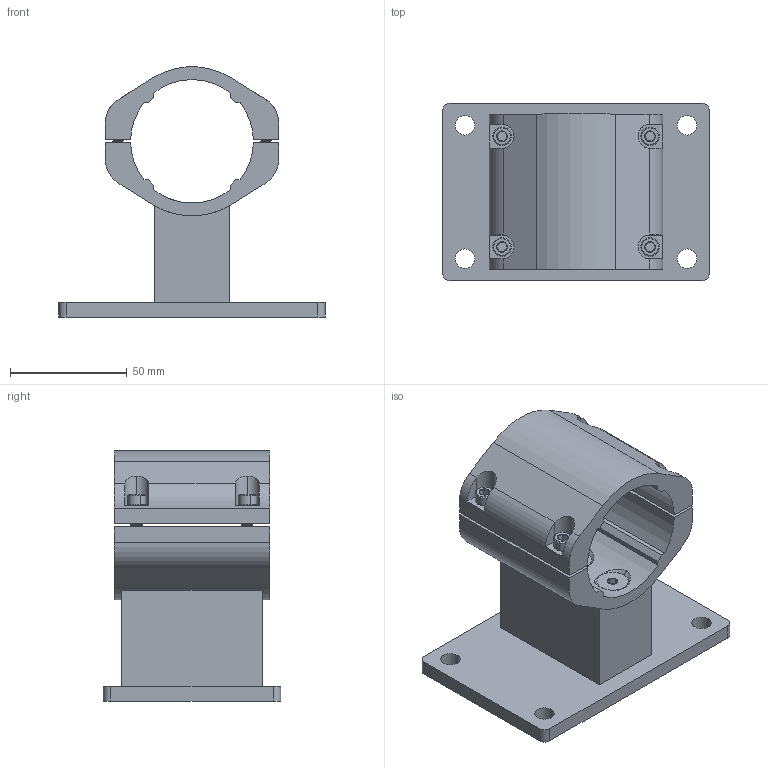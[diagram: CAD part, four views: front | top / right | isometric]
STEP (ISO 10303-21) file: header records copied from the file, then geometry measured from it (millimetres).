
FILE_DESCRIPTION (( 'STEP AP203' ), '1' );
FILE_NAME ('10-0551-00 REV 2, HD WALL BRACKET, 2in OD POLE.STEP', '2018-01-25T23:02:09', ( '' ), ( '' ), 'SwSTEP 2.0', 'SolidWorks 2012', '' );
FILE_SCHEMA (( 'CONFIG_CONTROL_DESIGN' ));
Length unit declared in the file: inch
Products named in the file (12): 10-0551-00 REV 2, HD WALL BRACKET, 2in OD POLE; 019-018, FHSCS, 3''8-16 x 1.0; 002-073-00, SHCS, 10-32 x .75, ZINC_002-073-00; 001-023-00, FHSCS, 1''4-20, .75L_001-023-00; 41-0498-1X REV 1, CAP THREADED, 2in POLE MOUNT, RAW; 41-0498-0X REV A, CAP, 2in POLE MOUNT, RAW; 41-0498-00 REV 2, CAP, 2in POLE MOUNT, BLACK; 41-0498-10 REV 1, CAP, THREADED, 2in POLE MOUNT, BLACK; 11-0499-00 REV 2, PLATE, 2in POLE WALL BRACKET, BLACK; 11-0499-0X REV 1, PLATE, 2in POLE WALL BRACKET_DEFAULT; 11-0502-00 REV 1, BRIDGE, WALL BRACKET, BLACK; 11-0502-0X REV 1, BRIDGE, WALL BRACKET, RAW
Assembly tree (17 placements, depth 3):
  10-0551-00 REV 2, HD WALL BRACKET, 2in OD POLE
    11-0499-00 REV 2, PLATE, 2in POLE WALL BRACKET, BLACK
      11-0499-0X REV 1, PLATE, 2in POLE WALL BRACKET_DEFAULT
    11-0502-00 REV 1, BRIDGE, WALL BRACKET, BLACK
      11-0502-0X REV 1, BRIDGE, WALL BRACKET, RAW
    41-0498-00 REV 2, CAP, 2in POLE MOUNT, BLACK
      41-0498-0X REV A, CAP, 2in POLE MOUNT, RAW
    41-0498-10 REV 1, CAP, THREADED, 2in POLE MOUNT, BLACK
      41-0498-1X REV 1, CAP THREADED, 2in POLE MOUNT, RAW
    019-018, FHSCS, 3''8-16 x 1.0  x2
    001-023-00, FHSCS, 1''4-20, .75L_001-023-00  x3
    002-073-00, SHCS, 10-32 x .75, ZINC_002-073-00  x4
Bounding box: 114.3 x 76.2 x 107.31 mm (x, y, z)
Volume: 225999.8 mm3; surface area: 75014.9 mm2
Topology: 13 solids, 13 shells, 1048 faces, 2825 edges, 1807 vertices
Faces by surface type: cylinder 702, cone 170, plane 142, bspline 24, torus 10
Entity records: 24576 total; most frequent: CARTESIAN_POINT 13199, ORIENTED_EDGE 2344, DIRECTION 1845, EDGE_CURVE 1172, VERTEX_POINT 752, AXIS2_PLACEMENT_3D 685, EDGE_LOOP 486, LINE 475
